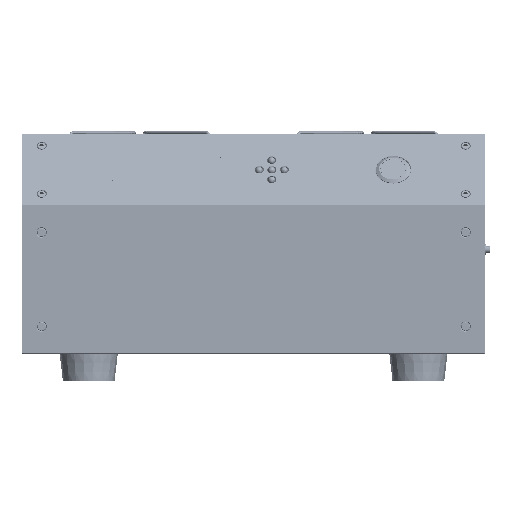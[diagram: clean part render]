
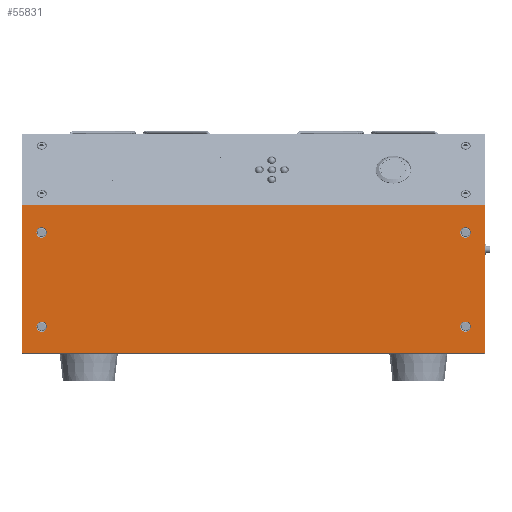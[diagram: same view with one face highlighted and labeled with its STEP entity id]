
A CAD part, left-side view. The second image highlights one B-rep face of the part: STEP entity #55831.
In plain terms, the highlighted planar face has unit normal (-1, 0, 0).
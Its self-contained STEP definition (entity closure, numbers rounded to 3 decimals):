
#4362 = EDGE_CURVE ( 'NONE', #168290, #168274, #74718, .T. ) ;
#4378 = EDGE_CURVE ( 'NONE', #168225, #168214, #74962, .T. ) ;
#4384 = EDGE_CURVE ( 'NONE', #168218, #168252, #74957, .T. ) ;
#4394 = EDGE_CURVE ( 'NONE', #168213, #168266, #74883, .T. ) ;
#4422 = EDGE_CURVE ( 'NONE', #168214, #168225, #75023, .T. ) ;
#4428 = EDGE_CURVE ( 'NONE', #168261, #168223, #75031, .T. ) ;
#4437 = EDGE_CURVE ( 'NONE', #168274, #168290, #75053, .T. ) ;
#4448 = EDGE_CURVE ( 'NONE', #168223, #168299, #75078, .T. ) ;
#4463 = EDGE_CURVE ( 'NONE', #168263, #168258, #75179, .T. ) ;
#4467 = EDGE_CURVE ( 'NONE', #168299, #168244, #75185, .T. ) ;
#4470 = EDGE_CURVE ( 'NONE', #168252, #168218, #75099, .T. ) ;
#4484 = EDGE_CURVE ( 'NONE', #168266, #168213, #75111, .T. ) ;
#4490 = EDGE_CURVE ( 'NONE', #168258, #168261, #75188, .T. ) ;
#4528 = EDGE_CURVE ( 'NONE', #168263, #168244, #75220, .T. ) ;
#28521 = AXIS2_PLACEMENT_3D ( 'NONE', #31763, #31731, #31790 ) ;
#31731 = DIRECTION ( 'NONE',  ( 1., 0., 0. ) ) ;
#31763 = CARTESIAN_POINT ( 'NONE',  ( -5., 94.686, 295. ) ) ;
#31789 = PLANE ( 'NONE',  #28521 ) ;
#31790 = DIRECTION ( 'NONE',  ( 0., 0., -1. ) ) ;
#33638 = AXIS2_PLACEMENT_3D ( 'NONE', #80065, #80050, #80029 ) ;
#33640 = AXIS2_PLACEMENT_3D ( 'NONE', #80105, #80107, #80109 ) ;
#33649 = AXIS2_PLACEMENT_3D ( 'NONE', #80161, #80147, #80121 ) ;
#33663 = AXIS2_PLACEMENT_3D ( 'NONE', #80190, #80215, #80168 ) ;
#33714 = AXIS2_PLACEMENT_3D ( 'NONE', #80706, #80657, #80725 ) ;
#33726 = AXIS2_PLACEMENT_3D ( 'NONE', #80434, #80436, #80393 ) ;
#33730 = AXIS2_PLACEMENT_3D ( 'NONE', #80688, #80727, #80695 ) ;
#33744 = AXIS2_PLACEMENT_3D ( 'NONE', #80804, #80749, #80786 ) ;
#33812 = AXIS2_PLACEMENT_3D ( 'NONE', #80666, #80648, #80670 ) ;
#33826 = AXIS2_PLACEMENT_3D ( 'NONE', #80510, #80498, #80521 ) ;
#38572 = FACE_BOUND ( 'NONE', #112469, .T. ) ;
#38612 = FACE_BOUND ( 'NONE', #112293, .T. ) ;
#38615 = FACE_BOUND ( 'NONE', #112557, .T. ) ;
#38657 = FACE_OUTER_BOUND ( 'NONE', #112487, .T. ) ;
#38693 = FACE_BOUND ( 'NONE', #112446, .T. ) ;
#55831 = ADVANCED_FACE ( 'NONE', ( #38693, #38615, #38612, #38572, #38657 ), #31789, .F. ) ;
#64173 = ORIENTED_EDGE ( 'NONE', *, *, #4422, .T. ) ;
#64221 = ORIENTED_EDGE ( 'NONE', *, *, #4484, .T. ) ;
#64243 = ORIENTED_EDGE ( 'NONE', *, *, #4384, .T. ) ;
#64361 = ORIENTED_EDGE ( 'NONE', *, *, #4470, .T. ) ;
#64419 = ORIENTED_EDGE ( 'NONE', *, *, #4463, .T. ) ;
#64422 = ORIENTED_EDGE ( 'NONE', *, *, #4528, .F. ) ;
#64457 = ORIENTED_EDGE ( 'NONE', *, *, #4467, .T. ) ;
#64459 = ORIENTED_EDGE ( 'NONE', *, *, #4362, .T. ) ;
#64485 = ORIENTED_EDGE ( 'NONE', *, *, #4490, .T. ) ;
#64493 = ORIENTED_EDGE ( 'NONE', *, *, #4428, .T. ) ;
#64523 = ORIENTED_EDGE ( 'NONE', *, *, #4437, .T. ) ;
#64578 = ORIENTED_EDGE ( 'NONE', *, *, #4394, .T. ) ;
#64587 = ORIENTED_EDGE ( 'NONE', *, *, #4448, .T. ) ;
#64683 = ORIENTED_EDGE ( 'NONE', *, *, #4378, .T. ) ;
#74718 = CIRCLE ( 'NONE', #33638, 3.3 ) ;
#74883 = CIRCLE ( 'NONE', #33663, 3.3 ) ;
#74957 = CIRCLE ( 'NONE', #33649, 3.3 ) ;
#74962 = CIRCLE ( 'NONE', #33640, 3.3 ) ;
#74991 = VECTOR ( 'NONE', #80371, 1000. ) ;
#75023 = CIRCLE ( 'NONE', #33726, 3.3 ) ;
#75031 = LINE ( 'NONE', #80440, #74991 ) ;
#75053 = CIRCLE ( 'NONE', #33826, 3.3 ) ;
#75064 = VECTOR ( 'NONE', #80582, 1000. ) ;
#75078 = LINE ( 'NONE', #80482, #75064 ) ;
#75099 = CIRCLE ( 'NONE', #33812, 3.3 ) ;
#75111 = CIRCLE ( 'NONE', #33744, 3.3 ) ;
#75174 = VECTOR ( 'NONE', #80796, 1000. ) ;
#75179 = CIRCLE ( 'NONE', #33730, 0.7 ) ;
#75185 = CIRCLE ( 'NONE', #33714, 0.7 ) ;
#75188 = LINE ( 'NONE', #80794, #75174 ) ;
#75220 = LINE ( 'NONE', #81091, #75272 ) ;
#75272 = VECTOR ( 'NONE', #81062, 1000. ) ;
#80029 = DIRECTION ( 'NONE',  ( 0., 0., -1. ) ) ;
#80050 = DIRECTION ( 'NONE',  ( 1., 0., 0. ) ) ;
#80065 = CARTESIAN_POINT ( 'NONE',  ( -5., 17.343, 282.5 ) ) ;
#80105 = CARTESIAN_POINT ( 'NONE',  ( -5., 17.343, 12.5 ) ) ;
#80107 = DIRECTION ( 'NONE',  ( 1., 0., 0. ) ) ;
#80109 = DIRECTION ( 'NONE',  ( 0., 0., -1. ) ) ;
#80121 = DIRECTION ( 'NONE',  ( 0., 0., -1. ) ) ;
#80147 = DIRECTION ( 'NONE',  ( 1., 0., 0. ) ) ;
#80161 = CARTESIAN_POINT ( 'NONE',  ( -5., 77.343, 282.5 ) ) ;
#80168 = DIRECTION ( 'NONE',  ( 0., 0., -1. ) ) ;
#80190 = CARTESIAN_POINT ( 'NONE',  ( -5., 77.343, 12.5 ) ) ;
#80215 = DIRECTION ( 'NONE',  ( 1., 0., 0. ) ) ;
#80371 = DIRECTION ( 'NONE',  ( 0., 0., -1. ) ) ;
#80393 = DIRECTION ( 'NONE',  ( 0., 0., -1. ) ) ;
#80434 = CARTESIAN_POINT ( 'NONE',  ( -5., 17.343, 12.5 ) ) ;
#80436 = DIRECTION ( 'NONE',  ( 1., 0., 0. ) ) ;
#80440 = CARTESIAN_POINT ( 'NONE',  ( -5., 94.686, 295. ) ) ;
#80482 = CARTESIAN_POINT ( 'NONE',  ( -5., 94.686, 0.3 ) ) ;
#80498 = DIRECTION ( 'NONE',  ( 1., 0., 0. ) ) ;
#80510 = CARTESIAN_POINT ( 'NONE',  ( -5., 17.343, 282.5 ) ) ;
#80521 = DIRECTION ( 'NONE',  ( 0., 0., -1. ) ) ;
#80582 = DIRECTION ( 'NONE',  ( 0., -1., 0. ) ) ;
#80648 = DIRECTION ( 'NONE',  ( 1., 0., 0. ) ) ;
#80657 = DIRECTION ( 'NONE',  ( -1., 0., 0. ) ) ;
#80666 = CARTESIAN_POINT ( 'NONE',  ( -5., 77.343, 282.5 ) ) ;
#80670 = DIRECTION ( 'NONE',  ( 0., 0., -1. ) ) ;
#80688 = CARTESIAN_POINT ( 'NONE',  ( -5., 1., 294. ) ) ;
#80695 = DIRECTION ( 'NONE',  ( 0., 0., -1. ) ) ;
#80706 = CARTESIAN_POINT ( 'NONE',  ( -5., 1., 1. ) ) ;
#80725 = DIRECTION ( 'NONE',  ( 0., 0., -1. ) ) ;
#80727 = DIRECTION ( 'NONE',  ( -1., 0., 0. ) ) ;
#80749 = DIRECTION ( 'NONE',  ( 1., 0., 0. ) ) ;
#80786 = DIRECTION ( 'NONE',  ( 0., 0., -1. ) ) ;
#80794 = CARTESIAN_POINT ( 'NONE',  ( -5., 94.686, 294.7 ) ) ;
#80796 = DIRECTION ( 'NONE',  ( 0., 1., 0. ) ) ;
#80804 = CARTESIAN_POINT ( 'NONE',  ( -5., 77.343, 12.5 ) ) ;
#81062 = DIRECTION ( 'NONE',  ( 0., 0., -1. ) ) ;
#81091 = CARTESIAN_POINT ( 'NONE',  ( -5., 0.3, 295. ) ) ;
#106282 = CARTESIAN_POINT ( 'NONE',  ( -5., 17.343, 9.2 ) ) ;
#106333 = CARTESIAN_POINT ( 'NONE',  ( -5., 17.343, 15.8 ) ) ;
#106353 = CARTESIAN_POINT ( 'NONE',  ( -5., 77.343, 285.8 ) ) ;
#106355 = CARTESIAN_POINT ( 'NONE',  ( -5., 77.343, 15.8 ) ) ;
#106369 = CARTESIAN_POINT ( 'NONE',  ( -5., 94.686, 0.3 ) ) ;
#106381 = CARTESIAN_POINT ( 'NONE',  ( -5., 0.3, 294. ) ) ;
#106403 = CARTESIAN_POINT ( 'NONE',  ( -5., 77.343, 9.2 ) ) ;
#106407 = CARTESIAN_POINT ( 'NONE',  ( -5., 0.3, 1. ) ) ;
#106415 = CARTESIAN_POINT ( 'NONE',  ( -5., 1., 294.7 ) ) ;
#106424 = CARTESIAN_POINT ( 'NONE',  ( -5., 17.343, 285.8 ) ) ;
#106457 = CARTESIAN_POINT ( 'NONE',  ( -5., 17.343, 279.2 ) ) ;
#106462 = CARTESIAN_POINT ( 'NONE',  ( -5., 77.343, 279.2 ) ) ;
#106487 = CARTESIAN_POINT ( 'NONE',  ( -5., 94.686, 294.7 ) ) ;
#106554 = CARTESIAN_POINT ( 'NONE',  ( -5., 1., 0.3 ) ) ;
#112293 = EDGE_LOOP ( 'NONE', ( #64243, #64361 ) ) ;
#112446 = EDGE_LOOP ( 'NONE', ( #64683, #64173 ) ) ;
#112469 = EDGE_LOOP ( 'NONE', ( #64578, #64221 ) ) ;
#112487 = EDGE_LOOP ( 'NONE', ( #64419, #64485, #64493, #64587, #64457, #64422 ) ) ;
#112557 = EDGE_LOOP ( 'NONE', ( #64459, #64523 ) ) ;
#168213 = VERTEX_POINT ( 'NONE', #106355 ) ;
#168214 = VERTEX_POINT ( 'NONE', #106282 ) ;
#168218 = VERTEX_POINT ( 'NONE', #106353 ) ;
#168223 = VERTEX_POINT ( 'NONE', #106369 ) ;
#168225 = VERTEX_POINT ( 'NONE', #106333 ) ;
#168244 = VERTEX_POINT ( 'NONE', #106407 ) ;
#168252 = VERTEX_POINT ( 'NONE', #106462 ) ;
#168258 = VERTEX_POINT ( 'NONE', #106415 ) ;
#168261 = VERTEX_POINT ( 'NONE', #106487 ) ;
#168263 = VERTEX_POINT ( 'NONE', #106381 ) ;
#168266 = VERTEX_POINT ( 'NONE', #106403 ) ;
#168274 = VERTEX_POINT ( 'NONE', #106457 ) ;
#168290 = VERTEX_POINT ( 'NONE', #106424 ) ;
#168299 = VERTEX_POINT ( 'NONE', #106554 ) ;
